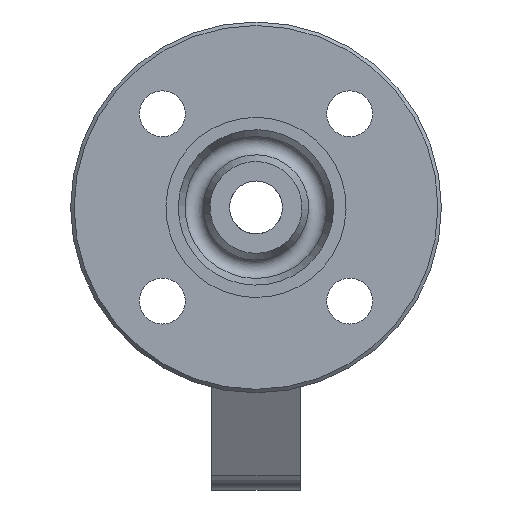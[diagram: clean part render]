
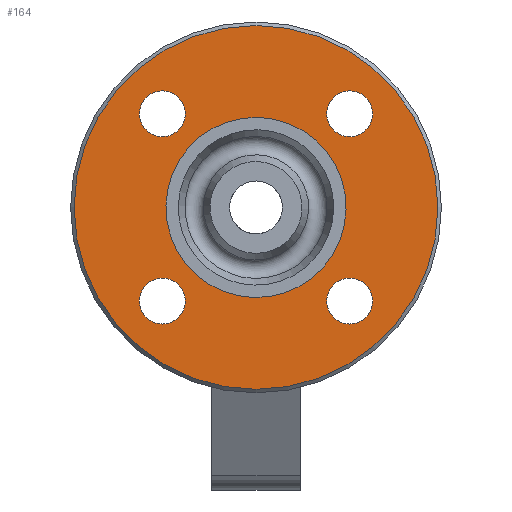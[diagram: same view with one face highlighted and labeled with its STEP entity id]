
A CAD part, left-side view. The second image highlights one B-rep face of the part: STEP entity #164.
In plain terms, the highlighted planar face has unit normal (-1, 0, 0).
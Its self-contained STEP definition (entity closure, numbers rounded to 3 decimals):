
#164=ADVANCED_FACE('',(#1411,#1413,#1415,#1417,#1419,#1421),#1423,.T.);
#1411=FACE_BOUND('',#1412,.T.);
#1412=EDGE_LOOP('',(#2364));
#1413=FACE_BOUND('',#1414,.T.);
#1414=EDGE_LOOP('',(#2365));
#1415=FACE_BOUND('',#1416,.T.);
#1416=EDGE_LOOP('',(#2366));
#1417=FACE_BOUND('',#1418,.T.);
#1418=EDGE_LOOP('',(#2367));
#1419=FACE_BOUND('',#1420,.T.);
#1420=EDGE_LOOP('',(#2368));
#1421=FACE_OUTER_BOUND('',#1422,.T.);
#1422=EDGE_LOOP('',(#2369));
#1423=PLANE('',#1424);
#1424=AXIS2_PLACEMENT_3D('',#1425,#1426,#1427);
#1425=CARTESIAN_POINT('',(-62.,0.,0.));
#1426=DIRECTION('',(-1.,0.,0.));
#1427=DIRECTION('',(0.,1.,0.));
#2364=ORIENTED_EDGE('',*,*,#3385,.T.);
#2365=ORIENTED_EDGE('',*,*,#3384,.T.);
#2366=ORIENTED_EDGE('',*,*,#3382,.T.);
#2367=ORIENTED_EDGE('',*,*,#3380,.T.);
#2368=ORIENTED_EDGE('',*,*,#3402,.T.);
#2369=ORIENTED_EDGE('',*,*,#3403,.F.);
#3380=EDGE_CURVE('',#3735,#3735,#3737,.F.);
#3382=EDGE_CURVE('',#3738,#3738,#3740,.F.);
#3384=EDGE_CURVE('',#3741,#3741,#3743,.F.);
#3385=EDGE_CURVE('',#3744,#3744,#3745,.F.);
#3402=EDGE_CURVE('',#3775,#3775,#3776,.T.);
#3403=EDGE_CURVE('',#3777,#3777,#3778,.T.);
#3735=VERTEX_POINT('',#4859);
#3737=CIRCLE('',#4863,6.5);
#3738=VERTEX_POINT('',#4867);
#3740=CIRCLE('',#4871,6.5);
#3741=VERTEX_POINT('',#4875);
#3743=CIRCLE('',#4879,6.5);
#3744=VERTEX_POINT('',#4883);
#3745=CIRCLE('',#4884,6.5);
#3775=VERTEX_POINT('',#4955);
#3776=CIRCLE('',#4956,25.5);
#3777=VERTEX_POINT('',#4960);
#3778=CIRCLE('',#4961,51.5);
#4859=CARTESIAN_POINT('',(-62.,33.017,-26.517));
#4863=AXIS2_PLACEMENT_3D('',#4864,#4865,#4866);
#4864=CARTESIAN_POINT('',(-62.,26.517,-26.517));
#4865=DIRECTION('',(-1.,0.,0.));
#4866=DIRECTION('',(0.,1.,0.));
#4867=CARTESIAN_POINT('',(-62.,26.517,33.017));
#4871=AXIS2_PLACEMENT_3D('',#4872,#4873,#4874);
#4872=CARTESIAN_POINT('',(-62.,26.517,26.517));
#4873=DIRECTION('',(-1.,0.,0.));
#4874=DIRECTION('',(0.,0.,1.));
#4875=CARTESIAN_POINT('',(-62.,-33.017,26.517));
#4879=AXIS2_PLACEMENT_3D('',#4880,#4881,#4882);
#4880=CARTESIAN_POINT('',(-62.,-26.517,26.517));
#4881=DIRECTION('',(-1.,0.,0.));
#4882=DIRECTION('',(0.,-1.,0.));
#4883=CARTESIAN_POINT('',(-62.,-26.517,-33.017));
#4884=AXIS2_PLACEMENT_3D('',#4885,#4886,#4887);
#4885=CARTESIAN_POINT('',(-62.,-26.517,-26.517));
#4886=DIRECTION('',(-1.,0.,0.));
#4887=DIRECTION('',(0.,0.,-1.));
#4955=CARTESIAN_POINT('',(-62.,-24.991,-5.069));
#4956=AXIS2_PLACEMENT_3D('',#4957,#4958,#4959);
#4957=CARTESIAN_POINT('',(-62.,0.,0.));
#4958=DIRECTION('',(1.,0.,0.));
#4959=DIRECTION('',(0.,-0.98,-0.199));
#4960=CARTESIAN_POINT('',(-62.,51.5,0.));
#4961=AXIS2_PLACEMENT_3D('',#4962,#4963,#4964);
#4962=CARTESIAN_POINT('',(-62.,0.,0.));
#4963=DIRECTION('',(1.,0.,0.));
#4964=DIRECTION('',(0.,1.,0.));
